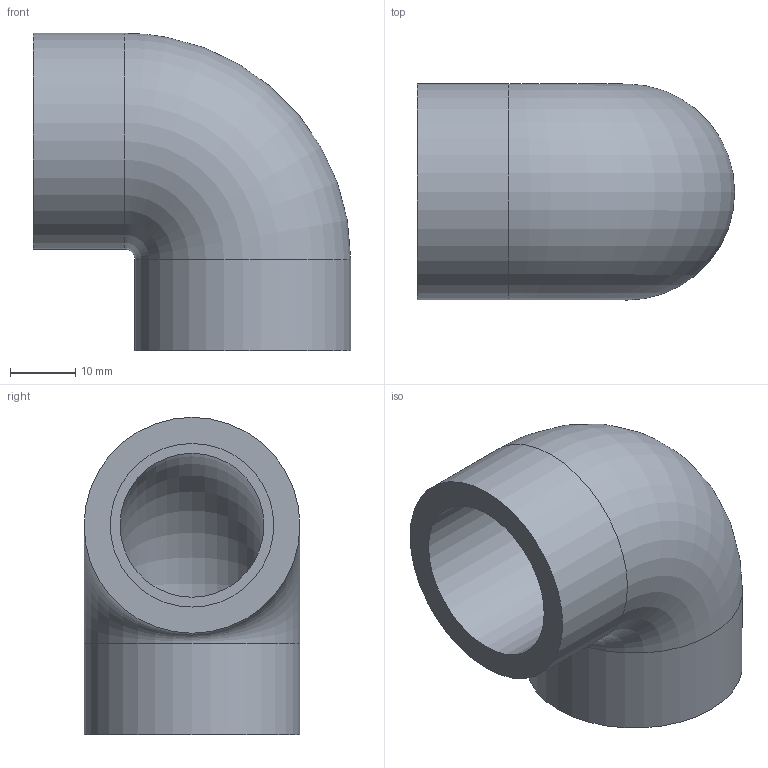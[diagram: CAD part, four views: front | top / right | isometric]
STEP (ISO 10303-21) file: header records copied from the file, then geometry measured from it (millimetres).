
FILE_DESCRIPTION(/* description */ ('PVC Elbow 90° solvent cement metric'),/* implementation_level */ '2;1');
FILE_NAME(/* name */ 'C:\Users\POLYPIPE\Desktop\DATASET INVENTOR\LIBRERIA EFFAST\RACCORDI 3DxWEB\RDR\3D_RDRGOD\3D_RDRGOD0250.stp',/* time_stamp */ '2018-01-19T14:27:09+01:00',/* author */ ('POLYPIPE'),/* organization */ ('Polypipe Italia s.r.l.'),/* preprocessor_version */ 'ST-DEVELOPER v16.1',/* originating_system */ 'Autodesk Inventor 2016',/* authorisation */ '');
FILE_SCHEMA (('CONFIG_CONTROL_DESIGN'));
Length unit declared in the file: millimetre
Products named in the file (1): 3D_RDRGOD
Bounding box: 48.5 x 33 x 48.5 mm (x, y, z)
Volume: 21715.7 mm3; surface area: 11180.3 mm2
Topology: 1 solids, 1 shells, 10 faces, 16 edges, 10 vertices
Faces by surface type: cylinder 4, plane 4, torus 2
Full cylindrical faces by diameter (mm): 25 x2, 33 x2
Entity records: 232 total; most frequent: DIRECTION 42, CARTESIAN_POINT 31, AXIS2_PLACEMENT_3D 21, EDGE_LOOP 20, ORIENTED_EDGE 20, FACE_BOUND 10, FACE_OUTER_BOUND 10, CIRCLE 10
